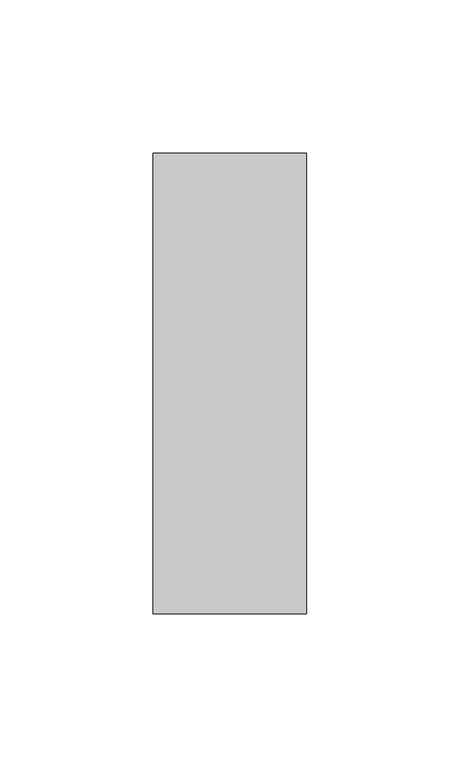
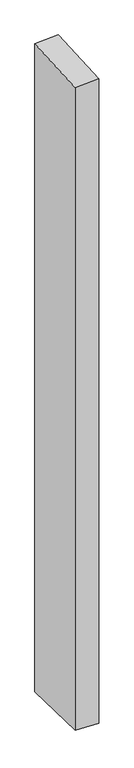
"""IFC4 building model written with IfcOpenShell, lengths in millimetres: member geometry, Прямоугольный импост : 50 x 150 мм."""

import ifcopenshell
import ifcopenshell.guid

model = None  # the IFC model being written
_history = None  # IfcOwnerHistory: only IFC2X3 demands one
_inside = {}  # id of a spatial element -> (the spatial element, [elements in it])
_under = {}  # id of a project, library or spatial element -> (it, [spatial elements below it])
_declared = {}  # id of a project -> (the project, [libraries it declares])
_typed = {}  # id of a type object -> (the type object, [elements of that type])
_made_of = {}  # id of a material, layer set ... -> (it, [elements and type objects made of it])


def new_model(schema):
    """Start an empty IFC model of exactly this schema.

    Asked for "IFC4X3", IfcOpenShell would pick the latest addendum, in which some entities
    have other attributes; the version numbers below select the first issue.
    IFC2X3 requires an IfcOwnerHistory on every rooted entity: one is made here for all.
    """
    global model, _history
    if schema == "IFC4X3":
        model = ifcopenshell.file(schema_version=(4, 3, 0, 0))
    else:
        model = ifcopenshell.file(schema=schema)
    _inside.clear()
    _under.clear()
    _declared.clear()
    _typed.clear()
    _made_of.clear()
    _history = None
    if model.schema == "IFC2X3":
        org = make("IfcOrganization", Name="unknown")
        user = make(
            "IfcPersonAndOrganization",
            ThePerson=make("IfcPerson", FamilyName="unknown"),
            TheOrganization=org,
        )
        app = make(
            "IfcApplication",
            ApplicationDeveloper=org,
            Version="unknown",
            ApplicationFullName="unknown",
            ApplicationIdentifier="unknown",
        )
        _history = make(
            "IfcOwnerHistory",
            OwningUser=user,
            OwningApplication=app,
            ChangeAction="ADDED",
            CreationDate=0,
        )
    return model


def make(cls, **values):
    """One entity of the class cls with the attributes given. An attribute that is None is left unset."""
    return model.create_entity(
        cls, **{name: value for name, value in values.items() if value is not None}
    )


def rooted(cls, **values):
    """An entity with a GlobalId (a new one), such as an element, a storey or a relation."""
    return make(cls, GlobalId=ifcopenshell.guid.new(), OwnerHistory=_history, **values)


def si_unit(unit_type, name, prefix=None):
    """IfcSIUnit, for example si_unit("LENGTHUNIT", "METRE", prefix="MILLI")."""
    return make("IfcSIUnit", UnitType=unit_type, Prefix=prefix, Name=name)


def assignment(units):
    """IfcUnitAssignment: the units of a project."""
    return None if units is None else make("IfcUnitAssignment", Units=units)


def point(xyz):
    """IfcCartesianPoint."""
    return None if xyz is None else make("IfcCartesianPoint", Coordinates=xyz)


def direction(xyz):
    """IfcDirection."""
    return None if xyz is None else make("IfcDirection", DirectionRatios=xyz)


def frame(location, z_axis=None, x_axis=None):
    """IfcAxis2Placement3D, a coordinate frame: its origin and axes. An axis left out is left unset."""
    return make(
        "IfcAxis2Placement3D",
        Location=point(location),
        Axis=direction(z_axis),
        RefDirection=direction(x_axis),
    )


def origin():
    """The frame at (0, 0, 0) with its axes left unset."""
    return frame((0.0, 0.0, 0.0))


def place(relative_to, where):
    """IfcLocalPlacement: puts the frame where relative to a parent placement (None: the world)."""
    return make(
        "IfcLocalPlacement", PlacementRelTo=relative_to, RelativePlacement=where
    )


def context(
    kind, dimensions, precision=None, world=None, true_north=None, identifier=None
):
    """IfcGeometricRepresentationContext, for example the 3D "Model" context."""
    return make(
        "IfcGeometricRepresentationContext",
        ContextIdentifier=identifier,
        ContextType=kind,
        CoordinateSpaceDimension=dimensions,
        Precision=precision,
        WorldCoordinateSystem=world,
        TrueNorth=true_north,
    )


def project(units=None, contexts=None):
    """IfcProject with its units and contexts."""
    return rooted(
        "IfcProject",
        Name="project",
        RepresentationContexts=contexts,
        UnitsInContext=assignment(units),
    )


def spatial(cls, under=None, at=None, **own):
    """A site, building, storey or space (cls), placed at a placement, below another one or the project."""
    s = rooted(cls, ObjectPlacement=at, **own)
    if under is not None:
        _under.setdefault(under.id(), (under, []))[1].append(s)
    return s


def faces_of(points, faces, orient=None, outer=None):
    """IfcFace entities. A face is a list of loops; a loop is a list of indices into points, from 0.

    orient and outer hold one flag for each loop. By default every Orientation is true, the
    first loop of a face is its IfcFaceOuterBound and the others are IfcFaceBound.
    """
    made = []
    for i, loops in enumerate(faces):
        bounds = []
        for j, loop in enumerate(loops):
            is_outer = j == 0 if outer is None else outer[i][j]
            bounds.append(
                make(
                    "IfcFaceOuterBound" if is_outer else "IfcFaceBound",
                    Bound=make("IfcPolyLoop", Polygon=[points[k] for k in loop]),
                    Orientation=True if orient is None else orient[i][j],
                )
            )
        made.append(make("IfcFace", Bounds=bounds))
    return made


def faceted_brep(points, faces, orient=None, outer=None, voids=None):
    """IfcFacetedBrep: a solid bounded by flat faces; with voids (closed shells), ...WithVoids."""
    shared = [point(p) for p in points]
    hull = make("IfcClosedShell", CfsFaces=faces_of(shared, faces, orient, outer))
    if voids is None:
        return make("IfcFacetedBrep", Outer=hull)
    return make(
        "IfcFacetedBrepWithVoids",
        Outer=hull,
        Voids=[
            make(cls, CfsFaces=faces_of(shared, fs, o, b)) for cls, fs, o, b in voids
        ],
    )


def shape(context_of_items, identifier, shape_type, items):
    """IfcShapeRepresentation: the items that make up one representation, for example the "Body"."""
    return make(
        "IfcShapeRepresentation",
        ContextOfItems=context_of_items,
        RepresentationIdentifier=identifier,
        RepresentationType=shape_type,
        Items=items,
    )


def source(mapping_origin, context_of_items, identifier, shape_type, items):
    """IfcRepresentationMap: a shape defined once, which mapped items show again and again."""
    return make(
        "IfcRepresentationMap",
        MappingOrigin=mapping_origin,
        MappedRepresentation=shape(context_of_items, identifier, shape_type, items),
    )


def transform(
    local_origin,
    x_axis=None,
    y_axis=None,
    z_axis=None,
    scale=None,
    scale2=None,
    scale3=None,
    uniform=True,
):
    """IfcCartesianTransformationOperator3D, or its non-uniform kind. x_axis, y_axis, z_axis: its Axis1, 2, 3."""
    if uniform:
        return make(
            "IfcCartesianTransformationOperator3D",
            Axis1=direction(x_axis),
            Axis2=direction(y_axis),
            LocalOrigin=point(local_origin),
            Scale=scale,
            Axis3=direction(z_axis),
        )
    return make(
        "IfcCartesianTransformationOperator3DnonUniform",
        Axis1=direction(x_axis),
        Axis2=direction(y_axis),
        LocalOrigin=point(local_origin),
        Scale=scale,
        Axis3=direction(z_axis),
        Scale2=scale2,
        Scale3=scale3,
    )


def mapped(mapping_source, mapping_target):
    """IfcMappedItem: shows the shape of a source again, moved by a transform."""
    return make(
        "IfcMappedItem", MappingSource=mapping_source, MappingTarget=mapping_target
    )


def made_of(thing, what):
    """Note that an element or type object is made of a material, layer set ...; save() writes the relation."""
    if what is not None:
        _made_of.setdefault(what.id(), (what, []))[1].append(thing)
    return thing


def element(
    cls,
    number,
    at=None,
    inside=None,
    cuts=None,
    type_object=None,
    material=None,
    context=None,
    identifier="Body",
    shape_type=None,
    held_by="IfcProductDefinitionShape",
    body=None,
    shapes=None,
    **own,
):
    """One element of the class cls, such as IfcWall. Its Tag is "e" and its number.

    at: its placement. inside: the storey or other place that contains it. cuts: it is an
    opening in that element (IfcRelVoidsElement). A single representation is given by context,
    identifier, shape_type and body (its items); several are given by shapes. held_by: the class
    of the entity that holds the representations. save() writes the other relations.
    """
    e = rooted(cls, Tag="e%d" % number, ObjectPlacement=at, **own)
    if body is not None:
        shapes = [shape(context, identifier, shape_type, body)]
    if shapes is not None:
        e.Representation = make(held_by, Representations=shapes)
    if inside is not None:
        _inside.setdefault(inside.id(), (inside, []))[1].append(e)
    if cuts is not None:
        rooted(
            "IfcRelVoidsElement", RelatingBuildingElement=cuts, RelatedOpeningElement=e
        )
    if type_object is not None:
        _typed.setdefault(type_object.id(), (type_object, []))[1].append(e)
    return made_of(e, material)


def aggregate(whole, parts):
    """IfcRelAggregates: a whole, such as a stair, and the parts it consists of."""
    return rooted("IfcRelAggregates", RelatingObject=whole, RelatedObjects=parts)


def save(model, path):
    """Write the relations noted so far, then the file.

    IfcRelAggregates (storeys below a building ...), IfcRelContainedInSpatialStructure (elements
    in a storey), IfcRelDefinesByType, IfcRelAssociatesMaterial and IfcRelDeclares: one each for
    every whole, place, type object, material and project.
    """
    for whole, parts in _under.values():
        aggregate(whole, parts)
    for where, things in _inside.values():
        rooted(
            "IfcRelContainedInSpatialStructure",
            RelatedElements=things,
            RelatingStructure=where,
        )
    for kind, things in _typed.values():
        rooted("IfcRelDefinesByType", RelatedObjects=things, RelatingType=kind)
    for what, things in _made_of.values():
        rooted("IfcRelAssociatesMaterial", RelatedObjects=things, RelatingMaterial=what)
    for by, libraries in _declared.values():
        rooted("IfcRelDeclares", RelatingContext=by, RelatedDefinitions=libraries)
    model.write(path)


def member_810a4077(model_context):
    return source(origin(), model_context, "Body", "Brep", [
        faceted_brep([(-25.0, 75.0, 2.7310857), (25.0, 75.0, 5.5979607), (25.0, 75.0, -1468.0298712), (-25.0, 75.0, -1465.7047869), (-25.0, -75.0, -5.5979607), (-25.0, -75.0, -1461.1538094), (25.0, -75.0, -2.7310857), (25.0, -75.0, -1463.4788937)], [[[0, 1, 2, 3]], [[4, 0, 3, 5]], [[6, 4, 5, 7]], [[1, 6, 7, 2]], [[1, 0, 4, 6]], [[2, 7, 5, 3]]]),
    ])


if __name__ == "__main__":
    model = new_model("IFC4")
    model_context = context("Model", 3, world=origin())
    ifc_project = project(units=[si_unit("LENGTHUNIT", "METRE", prefix="MILLI")], contexts=[model_context])
    site = spatial("IfcSite", under=ifc_project)
    building = spatial("IfcBuilding", under=site)
    placement = place(None, origin())
    member_shape = member_810a4077(model_context)
    element("IfcMember", 1, ObjectType="Прямоугольный импост : 50 x 150 мм", at=placement, inside=building, context=model_context, shape_type="MappedRepresentation", body=[
        mapped(member_shape, transform((0.0, 0.0, 0.0), x_axis=(1.0, 0.0, 0.0), y_axis=(0.0, 1.0, 0.0), z_axis=(0.0, 0.0, 1.0))),
    ])
    save(model, "model.ifc")
